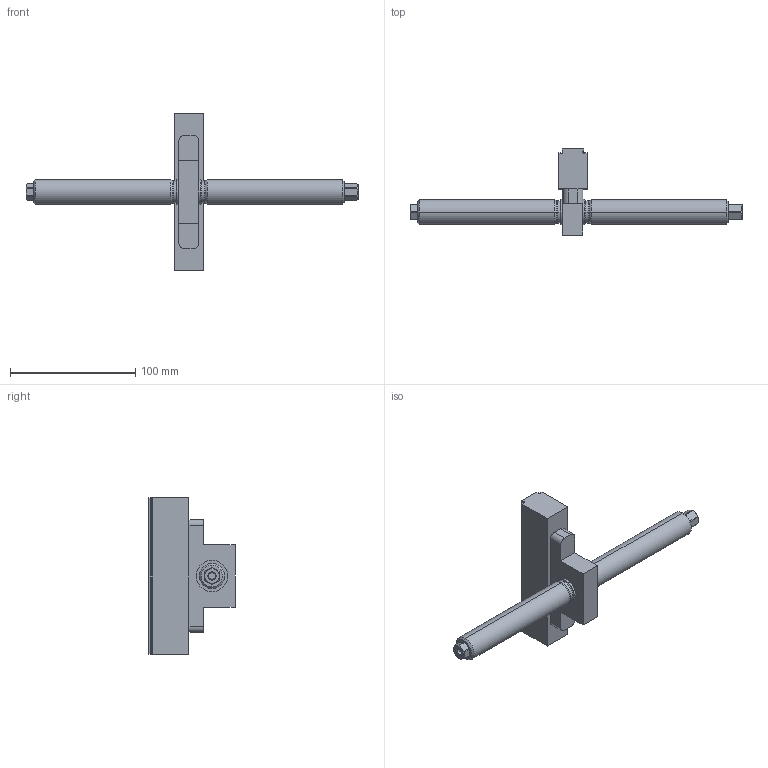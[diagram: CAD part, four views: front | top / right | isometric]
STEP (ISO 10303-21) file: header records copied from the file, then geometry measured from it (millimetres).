
FILE_DESCRIPTION (( 'STEP AP214' ), '1' );
FILE_NAME ('47255-TG17.STEP', '2023-02-20T08:58:23', ( '' ), ( '' ), 'SwSTEP 2.0', 'SolidWorks 2021', '' );
FILE_SCHEMA (( 'AUTOMOTIVE_DESIGN' ));
Length unit declared in the file: millimetre
Products named in the file (1): 47255-TG17
Bounding box: 265 x 68.8 x 124.6 mm (x, y, z)
Volume: 199691.1 mm3; surface area: 39058.3 mm2
Topology: 2 solids, 2 shells, 118 faces, 289 edges, 184 vertices
Faces by surface type: plane 57, cylinder 37, cone 16, torus 8
Entity records: 5026 total; most frequent: CARTESIAN_POINT 852, DIRECTION 607, ORIENTED_EDGE 578, EDGE_CURVE 289, AXIS2_PLACEMENT_3D 223, VERTEX_POINT 184, VECTOR 161, LINE 161
